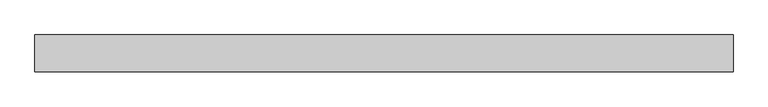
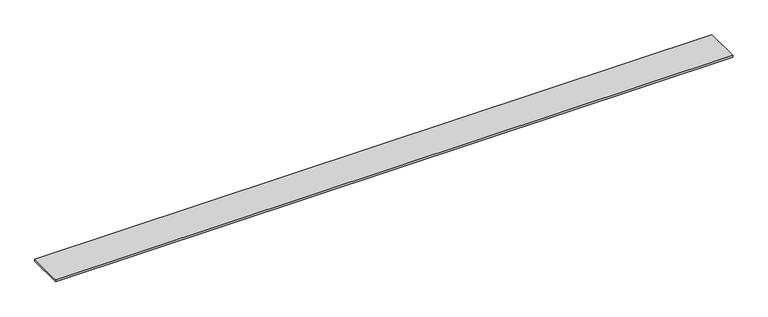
"""IFC4 building model written with IfcOpenShell, lengths in millimetres: beam geometry, 増し打ち : 増し打ち."""

from ifc_helpers import new_model, si_unit, origin, place, context, project, spatial, faceted_brep, source, transform, mapped, element, save


def beam_5df8994f(model_context):
    return source(origin(), model_context, "Body", "Brep", [
        faceted_brep([(7553.2234548, -4766.3998484, 2505.0), (7553.2234548, -5016.3998484, 2505.0), (2808.2341012, -5016.3998484, 2505.0), (2808.2341012, -4766.3998484, 2505.0), (7553.2234548, -4766.3998484, 2520.0), (2808.2341012, -4766.3998484, 2520.0), (2808.2341012, -5001.3998484, 2520.0), (2808.2341012, -5016.3998484, 2520.0), (7553.2234548, -5016.3998484, 2520.0)], [[[0, 1, 2, 3]], [[4, 5, 6, 7, 8]], [[0, 3, 5, 4]], [[3, 2, 7, 6, 5]], [[2, 1, 8, 7]], [[1, 0, 4, 8]]]),
    ])


if __name__ == "__main__":
    model = new_model("IFC4")
    model_context = context("Model", 3, world=origin())
    ifc_project = project(units=[si_unit("LENGTHUNIT", "METRE", prefix="MILLI")], contexts=[model_context])
    site = spatial("IfcSite", under=ifc_project)
    building = spatial("IfcBuilding", under=site)
    placement = place(None, origin())
    beam_shape = beam_5df8994f(model_context)
    element("IfcBeam", 1, ObjectType="増し打ち : 増し打ち", at=placement, inside=building, context=model_context, shape_type="MappedRepresentation", body=[
        mapped(beam_shape, transform((0.0, 0.0, 0.0), x_axis=(1.0, 0.0, 0.0), y_axis=(0.0, 1.0, 0.0), z_axis=(0.0, 0.0, 1.0))),
    ])
    save(model, "model.ifc")
